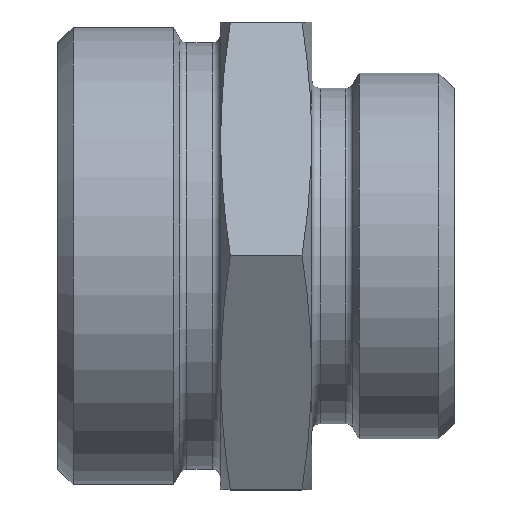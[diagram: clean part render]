
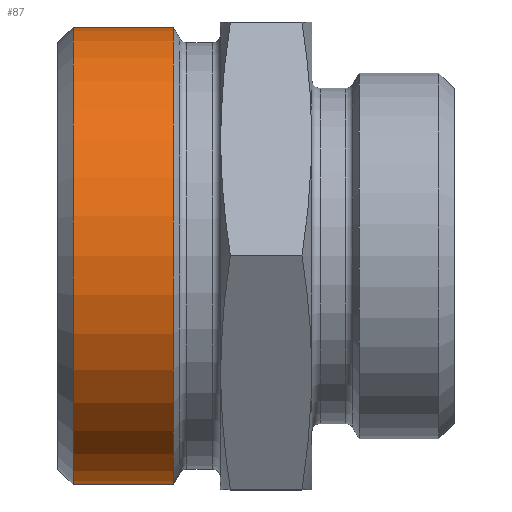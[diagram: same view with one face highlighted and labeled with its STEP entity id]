
A CAD part, top view. The second image highlights one B-rep face of the part: STEP entity #87.
In plain terms, the highlighted cylindrical face has radius 22.5 mm (diameter 45 mm), a full revolution.
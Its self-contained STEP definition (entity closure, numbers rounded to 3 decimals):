
#87 = ADVANCED_FACE( '', ( #196, #197 ), #198, .T. );
#196 = FACE_OUTER_BOUND( '', #329, .T. );
#197 = FACE_OUTER_BOUND( '', #330, .T. );
#198 = CYLINDRICAL_SURFACE( '', #331, 22.5 );
#329 = EDGE_LOOP( '', ( #503 ) );
#330 = EDGE_LOOP( '', ( #504 ) );
#331 = AXIS2_PLACEMENT_3D( '', #505, #506, #507 );
#503 = ORIENTED_EDGE( '', *, *, #656, .T. );
#504 = ORIENTED_EDGE( '', *, *, #640, .T. );
#505 = CARTESIAN_POINT( '', ( -60., 0., 0. ) );
#506 = DIRECTION( '', ( 1., 0., 0. ) );
#507 = DIRECTION( '', ( 0., 0., 1. ) );
#640 = EDGE_CURVE( '', #732, #732, #733, .T. );
#656 = EDGE_CURVE( '', #757, #757, #758, .F. );
#732 = VERTEX_POINT( '', #897 );
#733 = CIRCLE( '', #898, 22.5 );
#757 = VERTEX_POINT( '', #942 );
#758 = CIRCLE( '', #943, 22.5 );
#897 = CARTESIAN_POINT( '', ( -27.635, 0., 22.5 ) );
#898 = AXIS2_PLACEMENT_3D( '', #1059, #1060, #1061 );
#942 = CARTESIAN_POINT( '', ( -37.5, 0., 22.5 ) );
#943 = AXIS2_PLACEMENT_3D( '', #1080, #1081, #1082 );
#1059 = CARTESIAN_POINT( '', ( -27.635, 0., 0. ) );
#1060 = DIRECTION( '', ( -1., 0., 0. ) );
#1061 = DIRECTION( '', ( 0., 0., 1. ) );
#1080 = CARTESIAN_POINT( '', ( -37.5, 0., 0. ) );
#1081 = DIRECTION( '', ( -1., 0., 0. ) );
#1082 = DIRECTION( '', ( 0., 0., 1. ) );
